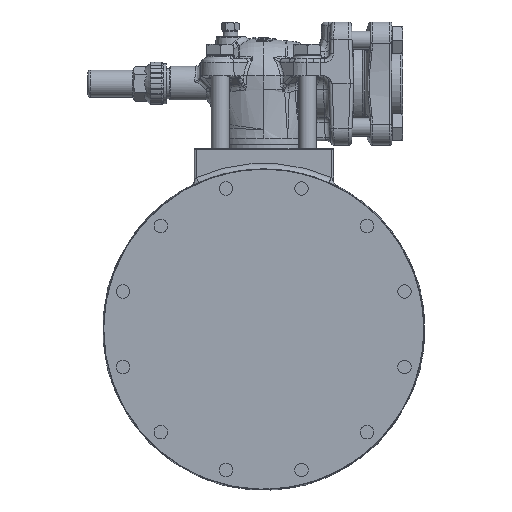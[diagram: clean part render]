
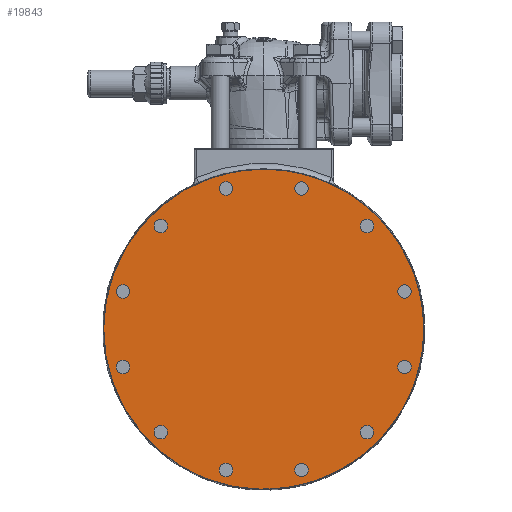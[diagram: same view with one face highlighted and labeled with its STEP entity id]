
A CAD part, left-side view. The second image highlights one B-rep face of the part: STEP entity #19843.
In plain terms, the highlighted planar face has unit normal (-1, 0, 0) as drawn and (1, 0, 0) by its records, which use the part's own axes.
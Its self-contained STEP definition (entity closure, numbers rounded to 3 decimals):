
#19843=ADVANCED_FACE('',(#25118,#25119,#25120,#25121,#25122,#25123,#25124,
#25125,#25126,#25127,#25128,#25129,#25130),#20685,.T.);
#20685=PLANE('',#53623);
#25118=FACE_BOUND('',#27732,.T.);
#25119=FACE_BOUND('',#27733,.T.);
#25120=FACE_BOUND('',#27734,.T.);
#25121=FACE_BOUND('',#27735,.T.);
#25122=FACE_BOUND('',#27736,.T.);
#25123=FACE_BOUND('',#27737,.T.);
#25124=FACE_BOUND('',#27738,.T.);
#25125=FACE_BOUND('',#27739,.T.);
#25126=FACE_BOUND('',#27740,.T.);
#25127=FACE_BOUND('',#27741,.T.);
#25128=FACE_BOUND('',#27742,.T.);
#25129=FACE_BOUND('',#27743,.T.);
#25130=FACE_BOUND('',#27744,.T.);
#27732=EDGE_LOOP('',(#38958));
#27733=EDGE_LOOP('',(#38959));
#27734=EDGE_LOOP('',(#38960));
#27735=EDGE_LOOP('',(#38961));
#27736=EDGE_LOOP('',(#38962));
#27737=EDGE_LOOP('',(#38963));
#27738=EDGE_LOOP('',(#38964));
#27739=EDGE_LOOP('',(#38965));
#27740=EDGE_LOOP('',(#38966));
#27741=EDGE_LOOP('',(#38967));
#27742=EDGE_LOOP('',(#38968));
#27743=EDGE_LOOP('',(#38969));
#27744=EDGE_LOOP('',(#38970));
#38958=ORIENTED_EDGE('',*,*,#49025,.F.);
#38959=ORIENTED_EDGE('',*,*,#49026,.F.);
#38960=ORIENTED_EDGE('',*,*,#49027,.F.);
#38961=ORIENTED_EDGE('',*,*,#49028,.F.);
#38962=ORIENTED_EDGE('',*,*,#49029,.F.);
#38963=ORIENTED_EDGE('',*,*,#49030,.F.);
#38964=ORIENTED_EDGE('',*,*,#49031,.F.);
#38965=ORIENTED_EDGE('',*,*,#49032,.F.);
#38966=ORIENTED_EDGE('',*,*,#49033,.F.);
#38967=ORIENTED_EDGE('',*,*,#49034,.F.);
#38968=ORIENTED_EDGE('',*,*,#49035,.F.);
#38969=ORIENTED_EDGE('',*,*,#49036,.F.);
#38970=ORIENTED_EDGE('',*,*,#49037,.T.);
#43266=VERTEX_POINT('',#115620);
#43267=VERTEX_POINT('',#115622);
#43268=VERTEX_POINT('',#115624);
#43269=VERTEX_POINT('',#115626);
#43270=VERTEX_POINT('',#115628);
#43271=VERTEX_POINT('',#115630);
#43272=VERTEX_POINT('',#115632);
#43273=VERTEX_POINT('',#115634);
#43274=VERTEX_POINT('',#115636);
#43275=VERTEX_POINT('',#115638);
#43276=VERTEX_POINT('',#115640);
#43277=VERTEX_POINT('',#115642);
#43278=VERTEX_POINT('',#115644);
#49025=EDGE_CURVE('',#43266,#43266,#50834,.T.);
#49026=EDGE_CURVE('',#43267,#43267,#50835,.T.);
#49027=EDGE_CURVE('',#43268,#43268,#50836,.T.);
#49028=EDGE_CURVE('',#43269,#43269,#50837,.T.);
#49029=EDGE_CURVE('',#43270,#43270,#50838,.T.);
#49030=EDGE_CURVE('',#43271,#43271,#50839,.T.);
#49031=EDGE_CURVE('',#43272,#43272,#50840,.T.);
#49032=EDGE_CURVE('',#43273,#43273,#50841,.T.);
#49033=EDGE_CURVE('',#43274,#43274,#50842,.T.);
#49034=EDGE_CURVE('',#43275,#43275,#50843,.T.);
#49035=EDGE_CURVE('',#43276,#43276,#50844,.T.);
#49036=EDGE_CURVE('',#43277,#43277,#50845,.T.);
#49037=EDGE_CURVE('',#43278,#43278,#50846,.T.);
#50834=CIRCLE('',#53610,6.);
#50835=CIRCLE('',#53611,6.);
#50836=CIRCLE('',#53612,6.);
#50837=CIRCLE('',#53613,6.);
#50838=CIRCLE('',#53614,6.);
#50839=CIRCLE('',#53615,6.);
#50840=CIRCLE('',#53616,6.);
#50841=CIRCLE('',#53617,6.);
#50842=CIRCLE('',#53618,6.);
#50843=CIRCLE('',#53619,6.);
#50844=CIRCLE('',#53620,6.);
#50845=CIRCLE('',#53621,6.);
#50846=CIRCLE('',#53622,142.9);
#53610=AXIS2_PLACEMENT_3D('',#115619,#61225,#61226);
#53611=AXIS2_PLACEMENT_3D('',#115621,#61227,#61228);
#53612=AXIS2_PLACEMENT_3D('',#115623,#61229,#61230);
#53613=AXIS2_PLACEMENT_3D('',#115625,#61231,#61232);
#53614=AXIS2_PLACEMENT_3D('',#115627,#61233,#61234);
#53615=AXIS2_PLACEMENT_3D('',#115629,#61235,#61236);
#53616=AXIS2_PLACEMENT_3D('',#115631,#61237,#61238);
#53617=AXIS2_PLACEMENT_3D('',#115633,#61239,#61240);
#53618=AXIS2_PLACEMENT_3D('',#115635,#61241,#61242);
#53619=AXIS2_PLACEMENT_3D('',#115637,#61243,#61244);
#53620=AXIS2_PLACEMENT_3D('',#115639,#61245,#61246);
#53621=AXIS2_PLACEMENT_3D('',#115641,#61247,#61248);
#53622=AXIS2_PLACEMENT_3D('',#115643,#61249,#61250);
#53623=AXIS2_PLACEMENT_3D('',#115645,#61251,#61252);
#61225=DIRECTION('',(1.,0.,0.));
#61226=DIRECTION('',(0.,0.,-1.));
#61227=DIRECTION('',(1.,0.,0.));
#61228=DIRECTION('',(0.,0.,-1.));
#61229=DIRECTION('',(1.,0.,0.));
#61230=DIRECTION('',(0.,0.,-1.));
#61231=DIRECTION('',(1.,0.,0.));
#61232=DIRECTION('',(0.,0.,-1.));
#61233=DIRECTION('',(1.,0.,0.));
#61234=DIRECTION('',(0.,0.,-1.));
#61235=DIRECTION('',(1.,0.,0.));
#61236=DIRECTION('',(0.,0.,-1.));
#61237=DIRECTION('',(1.,0.,0.));
#61238=DIRECTION('',(0.,0.,-1.));
#61239=DIRECTION('',(1.,0.,0.));
#61240=DIRECTION('',(0.,0.,-1.));
#61241=DIRECTION('',(1.,0.,0.));
#61242=DIRECTION('',(0.,0.,-1.));
#61243=DIRECTION('',(1.,0.,0.));
#61244=DIRECTION('',(0.,0.,-1.));
#61245=DIRECTION('',(1.,0.,0.));
#61246=DIRECTION('',(0.,0.,-1.));
#61247=DIRECTION('',(1.,0.,0.));
#61248=DIRECTION('',(0.,0.,-1.));
#61249=DIRECTION('',(1.,0.,0.));
#61250=DIRECTION('',(0.,0.,-1.));
#61251=DIRECTION('',(1.,0.,0.));
#61252=DIRECTION('',(0.,0.,1.));
#115619=CARTESIAN_POINT('',(152.573,-77.862,-33.646));
#115620=CARTESIAN_POINT('',(152.573,-77.862,-39.646));
#115621=CARTESIAN_POINT('',(152.573,173.278,-33.646));
#115622=CARTESIAN_POINT('',(152.573,173.278,-39.646));
#115623=CARTESIAN_POINT('',(152.573,139.632,-91.924));
#115624=CARTESIAN_POINT('',(152.573,139.632,-97.924));
#115625=CARTESIAN_POINT('',(152.573,14.062,-125.57));
#115626=CARTESIAN_POINT('',(152.573,14.062,-131.57));
#115627=CARTESIAN_POINT('',(152.573,-44.216,91.924));
#115628=CARTESIAN_POINT('',(152.573,-44.216,85.924));
#115629=CARTESIAN_POINT('',(152.573,-44.216,-91.924));
#115630=CARTESIAN_POINT('',(152.573,-44.216,-97.924));
#115631=CARTESIAN_POINT('',(152.573,139.632,91.924));
#115632=CARTESIAN_POINT('',(152.573,139.632,85.924));
#115633=CARTESIAN_POINT('',(152.573,173.278,33.646));
#115634=CARTESIAN_POINT('',(152.573,173.278,27.646));
#115635=CARTESIAN_POINT('',(152.573,81.354,-125.57));
#115636=CARTESIAN_POINT('',(152.573,81.354,-131.57));
#115637=CARTESIAN_POINT('',(152.573,-77.862,33.646));
#115638=CARTESIAN_POINT('',(152.573,-77.862,27.646));
#115639=CARTESIAN_POINT('',(152.573,81.354,125.57));
#115640=CARTESIAN_POINT('',(152.573,81.354,119.57));
#115641=CARTESIAN_POINT('',(152.573,14.062,125.57));
#115642=CARTESIAN_POINT('',(152.573,14.062,119.57));
#115643=CARTESIAN_POINT('',(152.573,47.708,0.));
#115644=CARTESIAN_POINT('',(152.573,47.708,-142.9));
#115645=CARTESIAN_POINT('',(152.573,47.708,0.));
